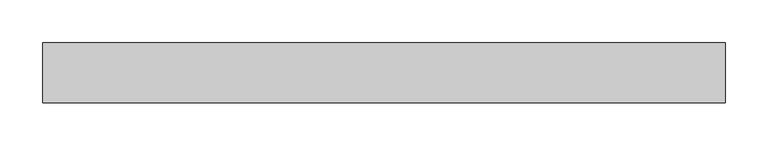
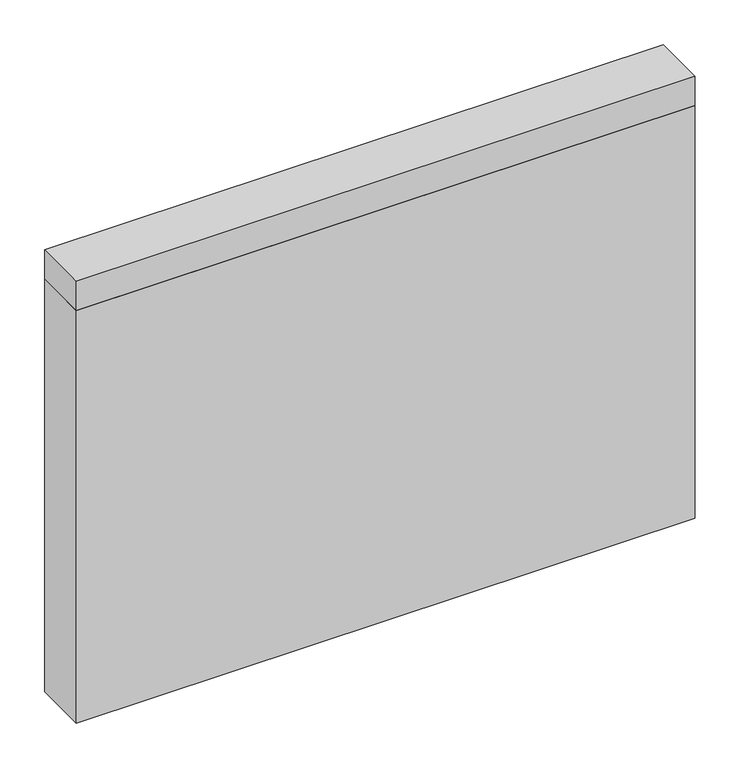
"""IFC4 building model written with IfcOpenShell, lengths in millimetres: plate geometry, 営_パーティションパネル_上部 : パーティションパネル_上部."""

from ifc_helpers import new_model, si_unit, frame, origin, origin_with_axes, place, context, project, spatial, polyline, outline, extrude, source, transform, mapped, element, save


def plate_48031bed(model_context):
    return source(origin(), model_context, "Body", "SweptSolid", [
        extrude(outline(polyline([(-397.4999998, -35.0), (-397.4999998, 35.0), (397.4999998, 35.0), (397.4999998, -35.0), (-397.4999998, -35.0)])), origin_with_axes(), (0.0, 0.0, 1.0), 560.0),
        extrude(outline(polyline([(-397.4999998, -35.0), (-397.4999998, 35.0), (397.4999998, 35.0), (397.4999998, -35.0), (-397.4999998, -35.0)])), frame((0.0, 0.0, 560.0), z_axis=(0.0, 0.0, 1.0), x_axis=(1.0, 0.0, 0.0)), (0.0, 0.0, 1.0), 40.0),
    ])


if __name__ == "__main__":
    model = new_model("IFC4")
    model_context = context("Model", 3, world=origin())
    ifc_project = project(units=[si_unit("LENGTHUNIT", "METRE", prefix="MILLI")], contexts=[model_context])
    site = spatial("IfcSite", under=ifc_project)
    building = spatial("IfcBuilding", under=site)
    placement = place(None, origin())
    plate_shape = plate_48031bed(model_context)
    element("IfcPlate", 1, ObjectType="営_パーティションパネル_上部 : パーティションパネル_上部", at=placement, inside=building, context=model_context, shape_type="MappedRepresentation", body=[
        mapped(plate_shape, transform((0.0, 0.0, 0.0), x_axis=(1.0, 0.0, 0.0), y_axis=(0.0, 1.0, 0.0), z_axis=(0.0, 0.0, 1.0))),
    ])
    save(model, "model.ifc")
